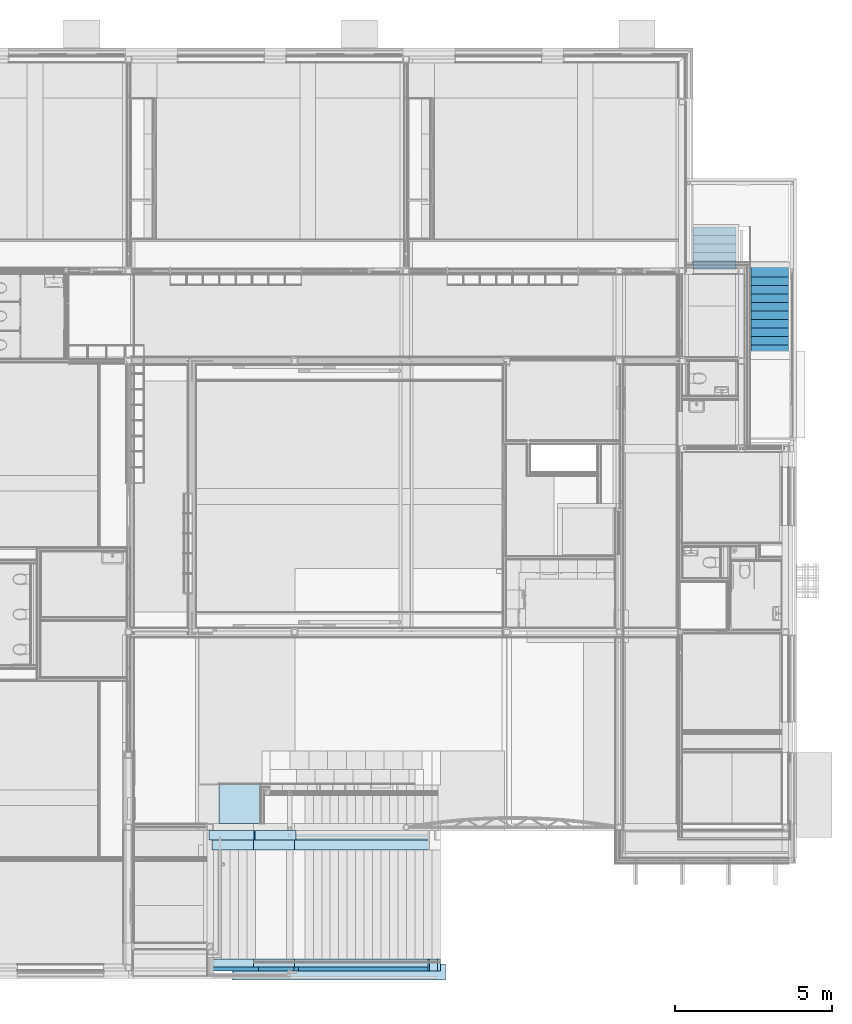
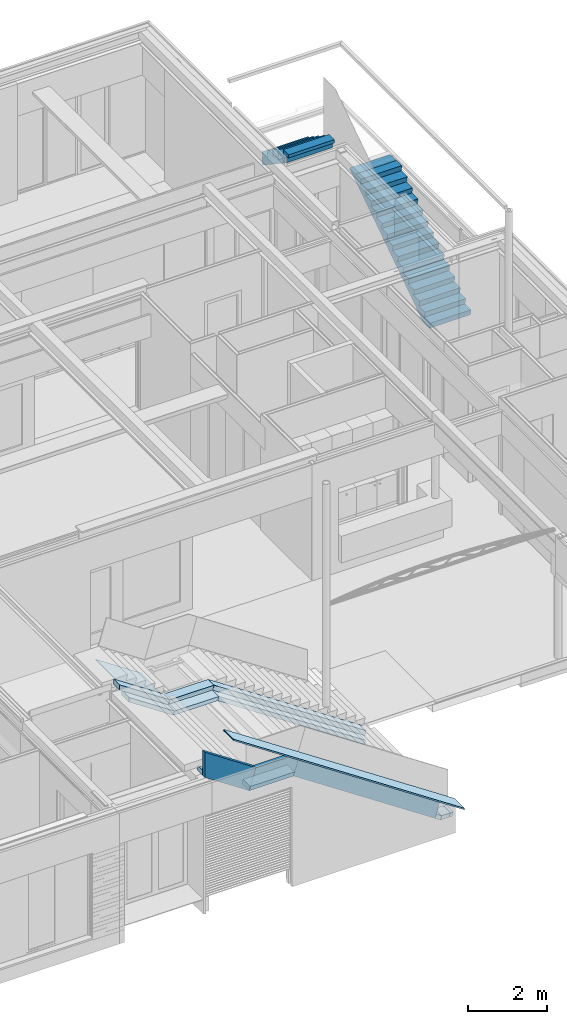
# One storey, part 29 of 165: 16 roofs, 2 stair flights, 1 element without a shape of its own.
"""IFC2X3 building model written with IfcOpenShell, lengths in millimetres."""

from ifc_helpers import new_model, entity, si_unit, converted_unit, derived_unit, money_unit, direction, frame, origin_with_axes, place, context, subcontext, project, spatial, faceted_brep, material, type_object, element, aggregate, save


model = new_model("IFC2X3")

# Units and contexts
model_context = context("Model", 3, precision=0.01, world=origin_with_axes(), true_north=direction((0.0, 1.0)))
body_context = subcontext(model_context, "Body", "Model", "MODEL_VIEW")
ifc_project = project(units=[si_unit("LENGTHUNIT", "METRE", prefix="MILLI"), si_unit("AREAUNIT", "SQUARE_METRE"), si_unit("VOLUMEUNIT", "CUBIC_METRE"), converted_unit("PLANEANGLEUNIT", "DEGREE", entity("IfcPlaneAngleMeasure", 0.0174532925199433), si_unit("PLANEANGLEUNIT", "RADIAN"), dimensions=[0, 0, 0, 0, 0, 0, 0]), money_unit("EUR"), converted_unit("TIMEUNIT", "Year", entity("IfcTimeMeasure", 31556926.0), si_unit("TIMEUNIT", "SECOND"), dimensions=[0, 0, 1, 0, 0, 0, 0]), si_unit("MASSUNIT", "GRAM", prefix="KILO"), si_unit("THERMODYNAMICTEMPERATUREUNIT", "DEGREE_CELSIUS"), si_unit("LUMINOUSINTENSITYUNIT", "LUMEN"), si_unit("ENERGYUNIT", "JOULE", prefix="MEGA"), derived_unit("THERMALCONDUCTANCEUNIT", [(si_unit("POWERUNIT", "WATT"), 1), (si_unit("LENGTHUNIT", "METRE"), -1), (si_unit("THERMODYNAMICTEMPERATUREUNIT", "KELVIN"), -1)]), derived_unit("SPECIFICHEATCAPACITYUNIT", [(si_unit("ENERGYUNIT", "JOULE"), 1), (si_unit("MASSUNIT", "GRAM", prefix="KILO"), -1), (si_unit("THERMODYNAMICTEMPERATUREUNIT", "KELVIN"), -1)]), derived_unit("MASSDENSITYUNIT", [(si_unit("MASSUNIT", "GRAM", prefix="KILO"), 1), (si_unit("VOLUMEUNIT", "CUBIC_METRE"), -1)])], contexts=[model_context])

# Site, building, storey
site_placement = place(None, origin_with_axes())
site = spatial("IfcSite", under=ifc_project, at=site_placement, Name="Site", CompositionType="ELEMENT")
building_placement = place(site_placement, origin_with_axes())
building = spatial("IfcBuilding", under=site, at=building_placement, Name="Naam gebouw", CompositionType="ELEMENT")
storey_placement = place(building_placement, origin_with_axes())
storey = spatial("IfcBuildingStorey", under=building, at=storey_placement, Name="Begane grond", CompositionType="ELEMENT", Elevation=0.0)

# Stair, stair flights
stair_placement = place(storey_placement, frame((28683.00498249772, 19522.76208257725, 350.0496907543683), z_axis=(0.0, 0.0, 1.0), x_axis=(1.0, 0.0, 0.0)))
stair = element("IfcStair", 1, at=stair_placement, inside=storey, Name="24_Trap-x", ShapeType="NOTDEFINED")
ifc_material_1 = material(Name="Beton C")
stair_flight_type = type_object("IfcStairFlightType", Name="IfcStairFlight", PredefinedType="NOTDEFINED")
stair_flight_1_placement = place(stair_placement, origin_with_axes())
stair_flight_1 = element("IfcStairFlight", 2, at=stair_flight_1_placement, type_object=stair_flight_type, material=ifc_material_1, Name="24_Trapconstructie-x", context=body_context, shape_type="Brep", body=[
    faceted_brep([(1216.995036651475, -1141.765504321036, -6.25256407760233e-05), (1216.99503638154, -817.2659833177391, -6.25256407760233e-05), (1216.995035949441, -730.0256854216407, 58.16013607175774), (1216.995035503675, -640.0256854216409, 118.1601360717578), (1216.995035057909, -550.025685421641, 178.160136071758), (1216.995034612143, -460.0256854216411, 238.160136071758), (1216.995034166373, -370.0256854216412, 298.1601360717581), (1216.995033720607, -280.0256854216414, 358.1601360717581), (1216.995033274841, -190.0256854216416, 418.160136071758), (1216.995032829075, -100.0256854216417, 478.1601360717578), (1216.995032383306, -10.02568542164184, 538.1601360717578), (1216.99503193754, 79.97431457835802, 598.1601360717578), (1216.995031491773, 169.9743145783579, 658.1601360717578), (1216.995031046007, 259.9743145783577, 718.1601360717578), (1216.995030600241, 349.9743145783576, 778.160136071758), (1216.995030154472, 439.9743145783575, 838.160136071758), (1216.995029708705, 529.9743145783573, 898.1601360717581), (1216.995029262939, 619.9743145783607, 958.1601360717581), (1216.995028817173, 709.9743145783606, 1018.160136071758), (1216.995028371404, 799.9743145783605, 1078.160136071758), (1216.995027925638, 889.9743145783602, 1138.160136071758), (1216.995027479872, 979.9743145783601, 1198.160136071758), (1216.995027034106, 1069.97431457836, 1258.160136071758), (1216.995026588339, 1159.97431457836, 1318.160136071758), (1216.99502614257, 1249.97431457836, 1378.160136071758), (1216.995025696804, 1339.97431457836, 1438.160136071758), (1216.995025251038, 1429.97431457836, 1498.160136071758), (1216.995024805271, 1519.974314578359, 1558.160136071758), (1216.995024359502, 1609.974314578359, 1618.160136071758), (1216.995023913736, 1699.974314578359, 1678.160136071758), (1216.99502346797, 1789.974314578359, 1738.160136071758), (1216.995023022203, 1879.974314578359, 1798.160136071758), (1216.995022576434, 1969.974314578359, 1858.160136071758), (1216.995022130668, 2059.974314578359, 1918.160136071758), (1216.995021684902, 2149.974314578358, 1978.160136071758), (1216.995021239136, 2239.974314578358, 2038.160136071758), (1216.99502079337, 2329.974314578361, 2098.160136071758), (1216.9950203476, 2419.974314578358, 2158.160136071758), (1216.995019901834, 2509.974314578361, 2218.160136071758), (1216.995009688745, 2599.974308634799, 2278.160132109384), (1216.995018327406, 2932.73410452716, 2500.0), (1216.995009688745, 2599.974308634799, 2500.0), (1216.995017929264, 2599.974314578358, 2520.0), (1216.995019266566, 2329.974314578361, 2520.0), (1216.995019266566, 2368.234495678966, 2340.0), (1216.995020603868, 2059.974314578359, 2340.0), (1216.995020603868, 2098.234495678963, 2160.0), (1216.995021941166, 1789.974314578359, 2160.0), (1216.995021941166, 1828.234495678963, 1980.0), (1216.995023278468, 1519.974314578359, 1980.0), (1216.995023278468, 1558.234495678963, 1800.0), (1216.99502461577, 1249.97431457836, 1799.999999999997), (1216.99502461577, 1288.234495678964, 1620.0), (1216.995025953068, 979.9743145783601, 1620.0), (1216.995025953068, 1018.234495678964, 1440.0), (1216.99502729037, 709.9743145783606, 1440.0), (1216.99502729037, 748.2344956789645, 1260.0), (1216.995028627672, 439.9743145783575, 1260.0), (1216.995028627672, 478.2344956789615, 1080.0), (1216.99502996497, 169.9743145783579, 1080.0), (1216.99502996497, 208.2344956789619, 899.9999999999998), (1216.995031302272, -100.0256854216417, 899.9999999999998), (1216.995031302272, -61.76550432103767, 720.0000000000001), (1216.995032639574, -370.0256854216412, 719.9999999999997), (1216.995032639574, -331.7655043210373, 540.0), (1216.995033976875, -640.0256854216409, 540.0), (1216.995033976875, -601.7655043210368, 359.9999999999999), (1216.995035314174, -910.0256854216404, 359.9999999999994), (1216.995035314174, -871.7655043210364, 179.9999999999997), (1216.995036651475, -1180.02568542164, 179.9999999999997), (16.99502204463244, -817.2659892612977, -6.25256407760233e-05), (16.99503051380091, -1141.765510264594, -6.25256407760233e-05), (16.99502161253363, -730.0256913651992, 58.16013607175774), (16.99502116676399, -640.0256913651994, 118.1601360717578), (16.99502205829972, -550.0256913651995, 178.160136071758), (16.99502161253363, -460.0256913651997, 238.160136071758), (16.99502116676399, -370.0256913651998, 298.1601360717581), (16.99502205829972, -280.0256913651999, 358.1601360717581), (16.99502161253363, -190.0256913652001, 418.1601360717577), (16.99502116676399, -100.0256913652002, 478.1601360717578), (16.99502205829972, -10.02569136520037, 538.1601360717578), (16.99502161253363, 79.97430863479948, 598.1601360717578), (16.99502250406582, 169.9743086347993, 658.1601360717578), (16.99502205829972, 259.9743086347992, 718.1601360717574), (16.99502161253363, 349.9743086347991, 778.160136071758), (16.99502250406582, 439.9743086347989, 838.160136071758), (16.99502205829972, 529.9743086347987, 898.1601360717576), (16.99502161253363, 619.9743086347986, 958.1601360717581), (16.99502231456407, 709.974308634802, 1018.160136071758), (16.99502186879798, 799.9743086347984, 1078.160136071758), (16.99502142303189, 889.9743086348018, 1138.160136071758), (16.99501295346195, 979.9743086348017, 1198.160136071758), (16.99501250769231, 1069.974308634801, 1258.160136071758), (16.99501206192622, 1159.974308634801, 1318.160136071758), (16.99501161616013, 1249.974308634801, 1378.160136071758), (16.99501250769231, 1339.974308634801, 1438.160136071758), (16.99501206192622, 1429.974308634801, 1498.160136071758), (16.99501161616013, 1519.974308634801, 1558.160136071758), (16.99501250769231, 1609.974308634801, 1618.160136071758), (16.99501206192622, 1699.974308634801, 1678.160136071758), (16.99501161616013, 1789.9743086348, 1738.160136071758), (16.99501250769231, 1879.9743086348, 1798.160136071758), (16.99501206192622, 1969.9743086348, 1858.160136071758), (16.99501295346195, 2059.9743086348, 1918.160136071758), (16.99501250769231, 2149.9743086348, 1978.160136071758), (16.99501206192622, 2239.9743086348, 2038.160136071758), (16.99501295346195, 2329.974308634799, 2098.160136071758), (16.99501250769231, 2419.974308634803, 2158.160136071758), (16.99501206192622, 2509.974308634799, 2218.160136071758), (16.99499720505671, 2599.974308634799, 2278.160136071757), (16.9950039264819, 2932.73410452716, 2500.0), (16.99499720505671, 2599.974308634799, 2500.0), (16.99501295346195, 2599.974308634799, 2520.0), (16.99501429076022, 2329.974308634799, 2520.0), (16.99501410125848, 2368.234489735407, 2340.0), (16.99501562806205, 2059.9743086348, 2340.0), (16.99501527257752, 2098.234489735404, 2160.0), (16.99501696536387, 1789.9743086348, 2160.0), (16.99501644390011, 1828.234489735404, 1980.0), (16.99501830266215, 1519.974308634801, 1980.0), (16.99501761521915, 1558.234489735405, 1800.0), (16.99501963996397, 1249.974308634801, 1800.0), (16.9950187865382, 1288.234489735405, 1620.0), (16.9950209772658, 979.9743086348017, 1620.0), (16.99501995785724, 1018.234489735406, 1440.0), (16.99502231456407, 709.974308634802, 1440.0), (16.99502112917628, 748.2344897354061, 1260.0), (16.99502365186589, 439.9743086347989, 1260.0), (16.99502348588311, 478.2344897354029, 1080.0), (16.99502498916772, 169.9743086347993, 1080.0), (16.9950246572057, 208.2344897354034, 899.9999999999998), (16.99502632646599, -100.0256913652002, 899.9999999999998), (16.99502582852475, -61.7655102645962, 720.0000000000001), (16.99502766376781, -370.0256913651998, 719.9999999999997), (16.99502699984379, -331.7655102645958, 540.0), (16.99502900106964, -640.0256913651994, 540.0), (16.99502817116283, -601.7655102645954, 359.9999999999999), (16.99503033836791, -910.025691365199, 359.9999999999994), (16.99502934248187, -871.7655102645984, 179.9999999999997), (16.99503167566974, -1180.025691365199, 179.9999999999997)], [[[0, 1, 2, 3, 4, 5, 6, 7, 8, 9, 10, 11, 12, 13, 14, 15, 16, 17, 18, 19, 20, 21, 22, 23, 24, 25, 26, 27, 28, 29, 30, 31, 32, 33, 34, 35, 36, 37, 38, 39, 40, 41, 42, 43, 44, 45, 46, 47, 48, 49, 50, 51, 52, 53, 54, 55, 56, 57, 58, 59, 60, 61, 62, 63, 64, 65, 66, 67, 68, 69]], [[70, 1, 0, 71]], [[1, 70, 72, 2]], [[72, 73, 3, 2]], [[73, 74, 4, 3]], [[74, 75, 5, 4]], [[75, 76, 6, 5]], [[76, 77, 7, 6]], [[77, 78, 8, 7]], [[78, 79, 9, 8]], [[79, 80, 10, 9]], [[80, 81, 11, 10]], [[81, 82, 12, 11]], [[82, 83, 13, 12]], [[83, 84, 14, 13]], [[84, 85, 15, 14]], [[85, 86, 16, 15]], [[86, 87, 17, 16]], [[87, 88, 18, 17]], [[88, 89, 19, 18]], [[89, 90, 20, 19]], [[90, 91, 21, 20]], [[91, 92, 22, 21]], [[92, 93, 23, 22]], [[93, 94, 24, 23]], [[94, 95, 25, 24]], [[95, 96, 26, 25]], [[96, 97, 27, 26]], [[97, 98, 28, 27]], [[98, 99, 29, 28]], [[99, 100, 30, 29]], [[100, 101, 31, 30]], [[101, 102, 32, 31]], [[102, 103, 33, 32]], [[103, 104, 34, 33]], [[104, 105, 35, 34]], [[105, 106, 36, 35]], [[106, 107, 37, 36]], [[107, 108, 38, 37]], [[40, 39, 38, 108, 109, 110]], [[110, 111, 41, 40]], [[42, 41, 111, 112]], [[43, 42, 112, 113]], [[43, 113, 114, 44]], [[114, 115, 45, 44]], [[45, 115, 116, 46]], [[116, 117, 47, 46]], [[47, 117, 118, 48]], [[118, 119, 49, 48]], [[49, 119, 120, 50]], [[120, 121, 51, 50]], [[51, 121, 122, 52]], [[122, 123, 53, 52]], [[53, 123, 124, 54]], [[124, 125, 55, 54]], [[55, 125, 126, 56]], [[126, 127, 57, 56]], [[57, 127, 128, 58]], [[128, 129, 59, 58]], [[59, 129, 130, 60]], [[130, 131, 61, 60]], [[61, 131, 132, 62]], [[132, 133, 63, 62]], [[63, 133, 134, 64]], [[134, 135, 65, 64]], [[65, 135, 136, 66]], [[136, 137, 67, 66]], [[67, 137, 138, 68]], [[138, 139, 69, 68]], [[71, 0, 69, 139]], [[70, 71, 139, 138, 137, 136, 135, 134, 133, 132, 131, 130, 129, 128, 127, 126, 125, 124, 123, 122, 121, 120, 119, 118, 117, 116, 115, 114, 113, 112, 111, 110, 109, 108, 107, 106, 105, 104, 103, 102, 101, 100, 99, 98, 97, 96, 95, 94, 93, 92, 91, 90, 89, 88, 87, 86, 85, 84, 83, 82, 81, 80, 79, 78, 77, 76, 75, 74, 73, 72]]]),
])
stair_flight_2_placement = place(stair_placement, origin_with_axes())
stair_flight_2 = element("IfcStairFlight", 3, at=stair_flight_2_placement, type_object=stair_flight_type, material=ifc_material_1, Name="24_Trapconstructie-x", context=body_context, shape_type="Brep", body=[
    faceted_brep([(-463.9947977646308, 2948.201732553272, 3500.0), (-463.9947977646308, 2948.201732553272, 3291.493469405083), (-463.9947977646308, 3028.201732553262, 3238.160136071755), (-463.9947977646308, 3118.201732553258, 3178.160136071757), (-463.9947977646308, 3208.201732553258, 3118.160136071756), (-463.9947977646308, 3298.201732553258, 3058.160136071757), (-463.9947977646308, 3388.201732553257, 2998.160136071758), (-463.9947977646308, 3478.201732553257, 2938.160136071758), (-463.9947977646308, 3568.201732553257, 2878.160136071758), (-463.9947977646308, 3658.201732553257, 2818.160136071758), (-463.9947977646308, 3748.201732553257, 2758.160136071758), (-463.9947977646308, 3838.201732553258, 2698.160136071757), (-463.9947977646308, 3928.201732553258, 2638.160136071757), (-463.9947977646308, 4018.201732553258, 2578.160136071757), (-463.9947977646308, 4108.201732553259, 2518.160136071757), (-463.9947977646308, 4135.441936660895, 2500.0), (-463.9947977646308, 4198.201732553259, 2500.0), (-463.9947977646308, 4198.201732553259, 2700.0), (-463.9947977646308, 4159.94154934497, 2700.0), (-463.9947977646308, 4198.201732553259, 2880.0), (-463.9947977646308, 3889.941551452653, 2880.0), (-463.9947977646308, 3928.201732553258, 3060.0), (-463.9947977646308, 3619.941551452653, 3060.0), (-463.9947977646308, 3658.201732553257, 3240.0), (-463.9947977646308, 3349.941551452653, 3240.0), (-463.9947977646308, 3388.201732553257, 3420.0), (-463.9947977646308, 3079.941551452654, 3420.0), (-463.9947977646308, 3118.201732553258, 3599.999999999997), (-463.9947977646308, 2848.201732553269, 3599.999999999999), (-463.9947977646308, 2848.201732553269, 3500.0), (-1813.994797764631, 2948.201732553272, 3500.0), (-1813.994797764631, 2948.201732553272, 3291.493469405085), (-1813.994797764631, 3028.201732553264, 3238.160136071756), (-1813.994797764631, 3118.201732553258, 3178.160136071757), (-1813.994797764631, 3208.201732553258, 3118.160136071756), (-1813.994797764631, 3298.201732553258, 3058.160136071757), (-1813.994797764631, 3388.201732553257, 2998.160136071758), (-1813.994797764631, 3478.201732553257, 2938.160136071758), (-1813.994797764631, 3568.201732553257, 2878.160136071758), (-1813.994797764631, 3658.201732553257, 2818.160136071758), (-1813.994797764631, 3748.201732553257, 2758.160136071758), (-1813.994797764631, 3838.201732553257, 2698.160136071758), (-1813.994797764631, 3928.201732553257, 2638.160136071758), (-1813.994797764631, 4018.201732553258, 2578.160136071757), (-1813.994797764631, 4108.201732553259, 2518.160136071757), (-1813.994797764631, 4135.441936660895, 2500.0), (-1813.994797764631, 4198.201732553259, 2500.0), (-1813.994797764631, 4198.201732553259, 2700.0), (-1813.994797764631, 4159.94154934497, 2700.0), (-1813.994797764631, 4198.201732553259, 2880.0), (-1813.994797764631, 3889.941551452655, 2880.0), (-1813.994797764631, 3928.201732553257, 3059.999999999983), (-1813.994797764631, 3619.941551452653, 3060.0), (-1813.994797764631, 3658.201732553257, 3240.0), (-1813.994797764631, 3349.941551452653, 3240.0), (-1813.994797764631, 3388.201732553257, 3420.0), (-1813.994797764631, 3079.941551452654, 3420.0), (-1813.994797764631, 3118.201732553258, 3599.999999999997), (-1813.994797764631, 2848.201732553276, 3599.999999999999), (-1813.994797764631, 2848.201732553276, 3500.0)], [[[0, 1, 2, 3, 4, 5, 6, 7, 8, 9, 10, 11, 12, 13, 14, 15, 16, 17, 18, 19, 20, 21, 22, 23, 24, 25, 26, 27, 28, 29]], [[1, 0, 30, 31]], [[1, 31, 32, 2]], [[33, 3, 2, 32]], [[34, 4, 3, 33]], [[35, 5, 4, 34]], [[36, 6, 5, 35]], [[37, 7, 6, 36]], [[38, 8, 7, 37]], [[39, 9, 8, 38]], [[40, 10, 9, 39]], [[41, 11, 10, 40]], [[42, 12, 11, 41]], [[43, 13, 12, 42]], [[44, 14, 13, 43]], [[45, 15, 14, 44]], [[46, 16, 15, 45]], [[16, 46, 47, 17]], [[47, 48, 18, 17]], [[18, 48, 49, 19]], [[19, 49, 50, 20]], [[20, 50, 51, 21]], [[21, 51, 52, 22]], [[22, 52, 53, 23]], [[23, 53, 54, 24]], [[24, 54, 55, 25]], [[25, 55, 56, 26]], [[26, 56, 57, 27]], [[27, 57, 58, 28]], [[59, 29, 28, 58]], [[0, 29, 59, 30]], [[30, 59, 58, 57, 56, 55, 54, 53, 52, 51, 50, 49, 48, 47, 46, 45, 44, 43, 42, 41, 40, 39, 38, 37, 36, 35, 34, 33, 32, 31]]]),
])
aggregate(stair, [stair_flight_1, stair_flight_2])

# Roofs
ifc_material_2 = material(Name="Isolatie - Kunststof hard")
roof_1_placement = place(storey_placement, frame((17799.99942433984, 4479.999990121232, 406.3584285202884), z_axis=(0.0, 0.0, 1.0), x_axis=(0.0, -1.0, 0.0)))
element("IfcRoof", 4, at=roof_1_placement, inside=storey, material=ifc_material_2, Name="27_Dak-x", ShapeType="NOTDEFINED", context=body_context, shape_type="Brep", body=[
    faceted_brep([(299.9999999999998, 846.9260595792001, -396.3583112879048), (0.0, 846.9260595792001, -396.3583112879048), (0.0, -3615.138438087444, 2578.351340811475), (299.9999999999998, -3615.138438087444, 2578.351340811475), (300.0000003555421, 804.5374702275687, -536.3583107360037), (-3.895159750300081e-07, 804.5374702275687, -536.3583107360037), (-3.895159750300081e-07, -3657.527027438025, 2438.351341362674), (300.0000003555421, -3657.527027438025, 2438.351341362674)], [[[0, 1, 2, 3]], [[1, 0, 4, 5]], [[2, 1, 5, 6]], [[3, 2, 6, 7]], [[0, 3, 7, 4]], [[5, 4, 7, 6]]]),
])
roof_2_placement = place(storey_placement, frame((14470.00009135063, 4480.000019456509, 2854.712922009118), z_axis=(0.0, 0.0, 1.0), x_axis=(1.124334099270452e-06, -0.999999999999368, 0.0)))
element("IfcRoof", 5, at=roof_2_placement, inside=storey, material=ifc_material_2, Name="27_Dak-x", ShapeType="NOTDEFINED", context=body_context, shape_type="Brep", body=[
    faceted_brep([(299.9982373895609, -1585.139021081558, 129.9999999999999), (299.9996990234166, -285.1394423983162, 129.9999999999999), (-0.0003205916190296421, -285.1391050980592, 129.9999999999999), (-0.001782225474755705, -1585.138683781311, 129.9999999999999), (299.9981935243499, -1624.499854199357, 1.117586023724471e-07), (299.9996551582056, -324.5002753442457, 1.117586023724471e-07), (-0.0003651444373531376, -324.4999380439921, 1.117586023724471e-07), (-0.001826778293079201, -1624.499516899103, 1.117586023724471e-07)], [[[0, 1, 2, 3]], [[1, 0, 4, 5]], [[2, 1, 5, 6]], [[3, 2, 6, 7]], [[0, 3, 7, 4]], [[5, 4, 7, 6]]]),
])
roof_3_placement = place(storey_placement, frame((12900.00035328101, 4479.999999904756, 2806.357981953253), z_axis=(0.0, 0.0, 1.0), x_axis=(0.0, -1.0, 0.0)))
element("IfcRoof", 6, at=roof_3_placement, inside=storey, material=ifc_material_2, Name="27_Dak-x", ShapeType="NOTDEFINED", context=body_context, shape_type="Brep", body=[
    faceted_brep([(300.0000000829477, -15.13894571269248, 178.3516897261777), (0.0, -15.13894571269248, 178.3516897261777), (0.0, -1493.074685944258, 1163.642178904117), (300.0000000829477, -1493.074685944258, 1163.642178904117), (300.0000003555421, -57.52753483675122, 38.35169012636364), (-3.895159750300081e-07, -57.52753483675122, 38.35169012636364), (-3.895159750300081e-07, -1493.074686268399, 995.3831202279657), (300.0000003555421, -1493.074686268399, 995.3831202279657)], [[[0, 1, 2, 3]], [[1, 0, 4, 5]], [[2, 1, 5, 6]], [[3, 2, 6, 7]], [[0, 3, 7, 4]], [[5, 4, 7, 6]]]),
])
ifc_material_3 = material(Name="Metaal - Aluminium")
roof_4_placement = place(storey_placement, frame((18919.99998069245, 660.1938499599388, 179.9999825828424), z_axis=(0.0, 0.0, 1.0), x_axis=(6.101378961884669e-08, -0.9999999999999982, 0.0)))
element("IfcRoof", 7, at=roof_4_placement, inside=storey, material=ifc_material_3, Name="27_Dak-x", ShapeType="NOTDEFINED", context=body_context, shape_type="Brep", body=[
    faceted_brep([(440.1934376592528, -6757.500055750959, 4505.000017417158), (440.1934383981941, -6745.389000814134, 4505.000017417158), (440.1934383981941, -6745.389000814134, 4545.000017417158), (440.1938589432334, 32.69811713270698, 26.27527228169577), (440.1938598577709, 32.69811693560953, -21.7987445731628), (950.1934376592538, -6757.500055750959, 4505.000017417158), (950.1934383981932, -6745.389031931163, 4505.000017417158), (950.1934383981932, -6745.389031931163, 4545.000017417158), (950.1938546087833, 32.69808601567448, 26.27529302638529), (950.1938559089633, 32.69808593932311, -21.79872390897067)], [[[0, 1, 2, 3, 4]], [[1, 0, 5, 6]], [[2, 1, 6, 7]], [[2, 7, 8, 3]], [[4, 3, 8, 9]], [[5, 0, 4, 9]], [[6, 5, 9, 8, 7]]]),
])
ifc_material_4 = material(Name="Gipsplaat")
roof_5_placement = place(storey_placement, frame((13095.4191247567, 5869.999801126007, 2646.416975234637), z_axis=(0.0, 0.0, 1.0), x_axis=(0.0, -1.0, 0.0)))
element("IfcRoof", 8, at=roof_5_placement, inside=storey, material=ifc_material_4, Name="27_Dak-x", ShapeType="NOTDEFINED", context=body_context, shape_type="Brep", body=[
    faceted_brep([(1175.999801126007, -41.9337515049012, 42.97895821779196), (-87.50063569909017, -41.9337515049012, 42.97895821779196), (-87.50063569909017, -1370.459596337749, 928.6626798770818), (1175.999801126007, -1370.459596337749, 928.6626798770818), (1175.999801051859, -41.93375137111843, 27.95582850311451), (-87.50063608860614, -41.93375137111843, 27.95582850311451), (-87.50063608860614, -1370.459596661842, 913.6395504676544), (1175.999801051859, -1370.459596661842, 913.6395504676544)], [[[0, 1, 2, 3]], [[1, 0, 4, 5]], [[2, 1, 5, 6]], [[3, 2, 6, 7]], [[0, 3, 7, 4]], [[5, 4, 7, 6]]]),
])
roof_6_placement = place(storey_placement, frame((17799.99942433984, 4230.00000088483, 263.9383995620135), z_axis=(0.0, 0.0, 1.0), x_axis=(0.0, -1.0, 0.0)))
element("IfcRoof", 9, at=roof_6_placement, inside=storey, material=ifc_material_2, Name="27_Dak-x", ShapeType="NOTDEFINED", context=body_context, shape_type="Brep", body=[
    faceted_brep([(375.9999999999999, 642.2406783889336, -283.938399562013), (0.0, 642.2406783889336, -283.938399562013), (0.0, -3662.759340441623, 2586.061600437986), (375.9999999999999, -3662.759340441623, 2586.061600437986), (375.9999997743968, 605.9076022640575, -403.9383998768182), (-3.895159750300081e-07, 605.9076022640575, -403.9383998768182), (-3.895159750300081e-07, -3699.092417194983, 2466.061600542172), (375.9999997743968, -3699.092417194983, 2466.061600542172)], [[[0, 1, 2, 3]], [[1, 0, 4, 5]], [[2, 1, 5, 6]], [[3, 2, 6, 7]], [[0, 3, 7, 4]], [[5, 4, 7, 6]]]),
])
roof_7_placement = place(storey_placement, frame((14470.00009135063, 4230.000019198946, 2730.0), z_axis=(0.0, 0.0, 1.0), x_axis=(1.124334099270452e-06, -0.999999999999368, 0.0)))
element("IfcRoof", 10, at=roof_7_placement, inside=storey, material=ifc_material_2, Name="27_Dak-x", ShapeType="NOTDEFINED", context=body_context, shape_type="Brep", body=[
    faceted_brep([(375.9981825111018, -1632.791580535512, 120.0000000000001), (375.9996441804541, -332.7604302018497, 120.0000000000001), (-0.0003741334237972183, -332.7600074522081, 120.0000000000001), (-0.001835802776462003, -1632.791157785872, 120.0000000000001), (375.9981420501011, -1669.124657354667, -1.117586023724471e-07), (375.9996037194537, -369.0935066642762, -1.117586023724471e-07), (-0.0004150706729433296, -369.0930839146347, -1.117586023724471e-07), (-0.001876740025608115, -1669.124234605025, -1.117586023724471e-07)], [[[0, 1, 2, 3]], [[1, 0, 4, 5]], [[2, 1, 5, 6]], [[3, 2, 6, 7]], [[0, 3, 7, 4]], [[5, 4, 7, 6]]]),
])
roof_8_placement = place(storey_placement, frame((12900.00035328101, 4229.982367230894, 2663.937796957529), z_axis=(0.0, 0.0, 1.0), x_axis=(0.0, -1.0, 0.0)))
element("IfcRoof", 11, at=roof_8_placement, inside=storey, material=ifc_material_2, Name="27_Dak-x", ShapeType="NOTDEFINED", context=body_context, shape_type="Brep", body=[
    faceted_brep([(375.9823665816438, -62.79141971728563, 186.0829971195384), (0.0, -62.79141971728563, 186.0829971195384), (0.0, -1397.760234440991, 1076.062203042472), (375.9823665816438, -1397.760234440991, 1076.062203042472), (375.9823670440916, -99.12449581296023, 66.08299678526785), (-3.895159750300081e-07, -99.12449581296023, 66.08299678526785), (-3.895159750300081e-07, -1397.760234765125, 931.8401522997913), (375.9823670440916, -1397.760234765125, 931.8401522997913)], [[[0, 1, 2, 3]], [[1, 0, 4, 5]], [[2, 1, 5, 6]], [[3, 2, 6, 7]], [[0, 3, 7, 4]], [[5, 4, 7, 6]]]),
])
roof_9_placement = place(storey_placement, frame((17799.99942433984, 376.0000008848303, 263.9383995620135), z_axis=(0.0, 0.0, 1.0), x_axis=(0.0, -1.0, 0.0)))
element("IfcRoof", 12, at=roof_9_placement, inside=storey, material=ifc_material_2, Name="27_Dak-x", ShapeType="NOTDEFINED", context=body_context, shape_type="Brep", body=[
    faceted_brep([(375.9999999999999, 642.2406783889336, -283.938399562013), (0.0, 642.2406783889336, -283.938399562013), (0.0, -3662.759340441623, 2586.061600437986), (375.9999999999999, -3662.759340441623, 2586.061600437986), (375.9999997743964, 605.9076022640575, -403.9383998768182), (-3.895163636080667e-07, 605.9076022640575, -403.9383998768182), (-3.895163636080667e-07, -3699.092417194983, 2466.061600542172), (375.9999997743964, -3699.092417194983, 2466.061600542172)], [[[0, 1, 2, 3]], [[1, 0, 4, 5]], [[2, 1, 5, 6]], [[3, 2, 6, 7]], [[0, 3, 7, 4]], [[5, 4, 7, 6]]]),
])
roof_10_placement = place(storey_placement, frame((12900.00035328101, 375.9823672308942, 2663.937796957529), z_axis=(0.0, 0.0, 1.0), x_axis=(0.0, -1.0, 0.0)))
element("IfcRoof", 13, at=roof_10_placement, inside=storey, material=ifc_material_2, Name="27_Dak-x", ShapeType="NOTDEFINED", context=body_context, shape_type="Brep", body=[
    faceted_brep([(375.9823665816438, -62.79141971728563, 186.0829971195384), (0.0, -62.79141971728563, 186.0829971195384), (0.0, -1397.760234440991, 1076.062203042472), (375.9823665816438, -1397.760234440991, 1076.062203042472), (375.9823670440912, -99.12449581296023, 66.08299678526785), (-3.895163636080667e-07, -99.12449581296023, 66.08299678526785), (-3.895163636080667e-07, -1397.760234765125, 931.8401522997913), (375.9823670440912, -1397.760234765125, 931.8401522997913)], [[[0, 1, 2, 3]], [[1, 0, 4, 5]], [[2, 1, 5, 6]], [[3, 2, 6, 7]], [[0, 3, 7, 4]], [[5, 4, 7, 6]]]),
])
roof_11_placement = place(storey_placement, frame((20155.63893946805, 376.0000094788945, -139.9999999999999), z_axis=(0.0, 0.0, 1.0), x_axis=(1.124334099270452e-06, -0.999999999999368, 0.0)))
element("IfcRoof", 14, at=roof_11_placement, inside=storey, material=ifc_material_2, Name="27_Dak-x", ShapeType="NOTDEFINED", context=body_context, shape_type="Brep", body=[
    faceted_brep([(375.9980918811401, -1713.399259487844, 119.9999999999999), (375.998482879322, -1365.639476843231, 119.9999999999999), (-0.001535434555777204, -1365.639054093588, 119.9999999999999), (-0.001926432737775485, -1713.398836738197, 119.9999999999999), (375.9980514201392, -1749.732336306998, -1.11758824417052e-07), (375.9984424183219, -1401.97255303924, -1.117587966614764e-07), (-0.001576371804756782, -1401.972130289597, -1.117587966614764e-07), (-0.001967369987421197, -1749.731913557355, -1.11758824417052e-07)], [[[0, 1, 2, 3]], [[1, 0, 4, 5]], [[2, 1, 5, 6]], [[3, 2, 6, 7]], [[0, 3, 7, 4]], [[5, 4, 7, 6]]]),
])
roof_12_placement = place(storey_placement, frame((17799.99942433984, 366.0000007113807, 263.9383995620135), z_axis=(0.0, 0.0, 1.0), x_axis=(0.0, -1.0, 0.0)))
element("IfcRoof", 15, at=roof_12_placement, inside=storey, material=ifc_material_2, Name="27_Dak-x", ShapeType="NOTDEFINED", context=body_context, shape_type="Brep", body=[
    faceted_brep([(243.9999999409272, -3532.134797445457, 3017.485160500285), (243.9999999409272, 612.3941340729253, 254.4658849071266), (243.9999996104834, 445.4365148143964, -296.9576756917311), (243.9999996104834, -3699.092417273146, 2466.061600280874), (366.000000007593, 612.3941353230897, 254.4658890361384), (366.000000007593, -3532.134796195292, 3017.485164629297), (366.0000000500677, 445.4365148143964, -296.9576756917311), (366.0000000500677, -3699.092417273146, 2466.061600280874)], [[[0, 1, 2, 3]], [[4, 1, 0, 5]], [[1, 4, 6, 2]], [[3, 2, 6, 7]], [[5, 0, 3, 7]], [[4, 5, 7, 6]]]),
])
roof_13_placement = place(storey_placement, frame((14470.00009135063, 376.0000190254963, 2730.0), z_axis=(0.0, 0.0, 1.0), x_axis=(1.124334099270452e-06, -0.999999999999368, 0.0)))
element("IfcRoof", 16, at=roof_13_placement, inside=storey, material=ifc_material_2, Name="27_Dak-x", ShapeType="NOTDEFINED", context=body_context, shape_type="Brep", body=[
    faceted_brep([(253.9996030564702, -350.0004105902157, 649.9999999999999), (253.9997693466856, -202.1357499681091, 551.4235600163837), (253.9995818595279, -369.0933693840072, -3.725291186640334e-07), (253.9981202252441, -1669.093329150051, -3.725291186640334e-07), (253.9983412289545, -1472.289164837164, 649.9999999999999), (375.9997911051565, -202.1358858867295, 551.4235641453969), (375.9996247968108, -350.0005403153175, 649.9999999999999), (375.9996037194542, -369.0935065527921, -3.725291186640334e-07), (375.9981420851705, -1669.093466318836, -3.725291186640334e-07), (375.9983629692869, -1472.289302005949, 649.9999999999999)], [[[0, 1, 2, 3, 4]], [[5, 1, 0, 6]], [[1, 5, 7, 2]], [[2, 7, 8, 3]], [[8, 9, 4, 3]], [[6, 0, 4, 9]], [[5, 6, 9, 8, 7]]]),
])
roof_14_placement = place(storey_placement, frame((14470.00009135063, 376.0000191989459, 2730.0), z_axis=(0.0, 0.0, 1.0), x_axis=(1.124334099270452e-06, -0.999999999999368, 0.0)))
element("IfcRoof", 17, at=roof_14_placement, inside=storey, material=ifc_material_2, Name="27_Dak-x", ShapeType="NOTDEFINED", context=body_context, shape_type="Brep", body=[
    faceted_brep([(375.9981825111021, -1632.791580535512, 120.0000000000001), (375.9996441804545, -332.7604302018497, 120.0000000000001), (-0.0003741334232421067, -332.7600074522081, 120.0000000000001), (-0.001835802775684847, -1632.791157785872, 120.0000000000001), (375.9981420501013, -1669.124657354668, -1.117586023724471e-07), (375.9996037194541, -369.093506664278, -1.117586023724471e-07), (-0.0004150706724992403, -369.0930839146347, -1.117586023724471e-07), (-0.001876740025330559, -1669.124234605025, -1.117586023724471e-07)], [[[0, 1, 2, 3]], [[1, 0, 4, 5]], [[2, 1, 5, 6]], [[3, 2, 6, 7]], [[0, 3, 7, 4]], [[5, 4, 7, 6]]]),
])
roof_15_placement = place(storey_placement, frame((12900.00035328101, 375.9823670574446, 2663.937796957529), z_axis=(0.0, 0.0, 1.0), x_axis=(0.0, -1.0, 0.0)))
element("IfcRoof", 18, at=roof_15_placement, inside=storey, material=ifc_material_2, Name="27_Dak-x", ShapeType="NOTDEFINED", context=body_context, shape_type="Brep", body=[
    faceted_brep([(375.9823665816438, 97.71085881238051, 716.0622030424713), (253.9823446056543, 97.71085881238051, 716.0622030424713), (253.9823446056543, -1397.760234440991, 1713.042927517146), (375.9823665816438, -1397.760234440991, 1713.042927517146), (375.9823670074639, -99.09330514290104, 66.06220269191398), (253.9823442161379, -99.09330514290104, 66.06220269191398), (253.9823442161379, -1397.760234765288, 931.8401519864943), (375.9823670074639, -1397.760234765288, 931.8401519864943)], [[[0, 1, 2, 3]], [[1, 0, 4, 5]], [[2, 1, 5, 6]], [[3, 2, 6, 7]], [[0, 3, 7, 4]], [[5, 4, 7, 6]]]),
])
roof_16_placement = place(storey_placement, frame((20075.03126051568, 376.0000008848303, -140.0000000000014), z_axis=(0.0, 0.0, 1.0), x_axis=(1.124334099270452e-06, -0.999999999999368, 0.0)))
element("IfcRoof", 19, at=roof_16_placement, inside=storey, material=ifc_material_2, Name="27_Dak-x", ShapeType="NOTDEFINED", context=body_context, shape_type="Brep", body=[
    faceted_brep([(375.9981825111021, -1632.791580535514, 119.9999999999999), (375.9984723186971, -1375.032258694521, 119.9999999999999), (-0.001545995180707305, -1375.031835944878, 119.9999999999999), (-0.001835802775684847, -1632.791157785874, 119.9999999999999), (375.9981420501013, -1669.124657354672, -1.11758824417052e-07), (375.9984318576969, -1411.36533494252, -1.117587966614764e-07), (-0.001586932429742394, -1411.364912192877, -1.117587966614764e-07), (-0.001876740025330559, -1669.124234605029, -1.11758824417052e-07)], [[[0, 1, 2, 3]], [[1, 0, 4, 5]], [[2, 1, 5, 6]], [[3, 2, 6, 7]], [[0, 3, 7, 4]], [[5, 4, 7, 6]]]),
])

save(model, "model.ifc")
